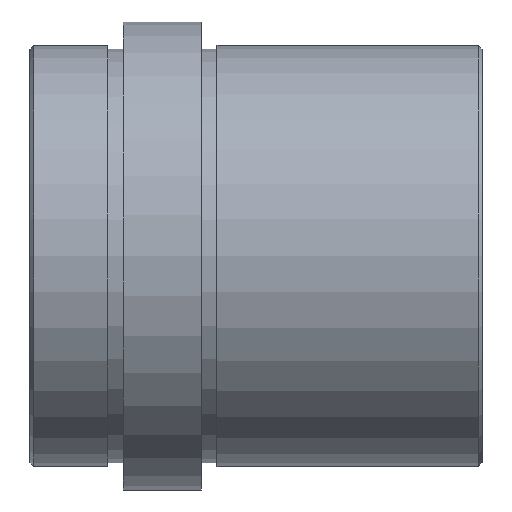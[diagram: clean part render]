
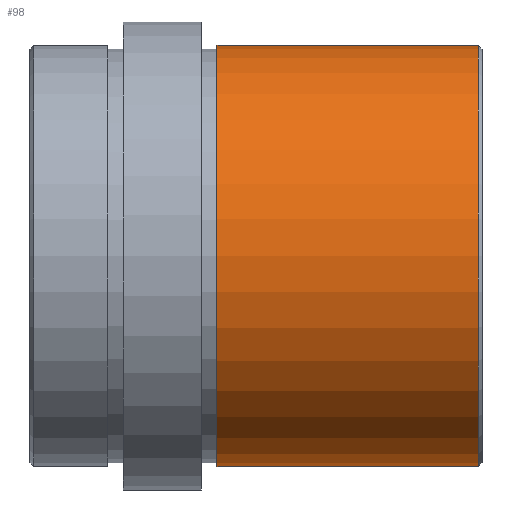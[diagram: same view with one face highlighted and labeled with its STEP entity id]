
A CAD part, top view. The second image highlights one B-rep face of the part: STEP entity #98.
In plain terms, the highlighted face is a revolution surface.
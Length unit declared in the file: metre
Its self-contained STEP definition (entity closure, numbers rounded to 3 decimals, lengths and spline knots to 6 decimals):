
#98 = ADVANCED_FACE( '', ( #152 ), #153, .F. );
#152 = FACE_OUTER_BOUND( '', #241, .T. );
#153 = SURFACE_OF_REVOLUTION( '', #242, #243 );
#241 = EDGE_LOOP( '', ( #407, #408, #409, #410 ) );
#242 = B_SPLINE_CURVE_WITH_KNOTS( '', 1, ( #411, #412 ), .UNSPECIFIED., .F., .F., ( 2, 2 ), ( -10000., 10000. ), .UNSPECIFIED. );
#243 = AXIS1_PLACEMENT( '', #413, #414 );
#407 = ORIENTED_EDGE( '', *, *, #489, .F. );
#408 = ORIENTED_EDGE( '', *, *, #446, .F. );
#409 = ORIENTED_EDGE( '', *, *, #490, .F. );
#410 = ORIENTED_EDGE( '', *, *, #491, .T. );
#411 = CARTESIAN_POINT( '', ( 10000.0575, -0.027, 0. ) );
#412 = CARTESIAN_POINT( '', ( -9999.9425, -0.027, 0. ) );
#413 = CARTESIAN_POINT( '', ( 0., 0., 0. ) );
#414 = DIRECTION( '', ( 1., 0., 0. ) );
#446 = EDGE_CURVE( '', #500, #499, #502, .T. );
#489 = EDGE_CURVE( '', #499, #571, #572, .F. );
#490 = EDGE_CURVE( '', #573, #500, #574, .T. );
#491 = EDGE_CURVE( '', #573, #571, #575, .T. );
#499 = VERTEX_POINT( '', #583 );
#500 = VERTEX_POINT( '', #584 );
#502 = CIRCLE( '', #586, 0.027 );
#571 = VERTEX_POINT( '', #671 );
#572 = LINE( '', #672, #673 );
#573 = VERTEX_POINT( '', #674 );
#574 = LINE( '', #675, #676 );
#575 = CIRCLE( '', #677, 0.027 );
#583 = CARTESIAN_POINT( '', ( 0.024, 0.027, 0. ) );
#584 = CARTESIAN_POINT( '', ( 0.024, -0.027, 0. ) );
#586 = AXIS2_PLACEMENT_3D( '', #692, #693, #694 );
#671 = CARTESIAN_POINT( '', ( 0.0575, 0.027, 0. ) );
#672 = CARTESIAN_POINT( '', ( 0.0575, 0.027, 0. ) );
#673 = VECTOR( '', #789, 1. );
#674 = CARTESIAN_POINT( '', ( 0.0575, -0.027, 0. ) );
#675 = CARTESIAN_POINT( '', ( 0.0575, -0.027, 0. ) );
#676 = VECTOR( '', #790, 1. );
#677 = AXIS2_PLACEMENT_3D( '', #791, #792, #793 );
#692 = CARTESIAN_POINT( '', ( 0.024, 0., 0. ) );
#693 = DIRECTION( '', ( -1., 0., 0. ) );
#694 = DIRECTION( '', ( 0., -1., 0. ) );
#789 = DIRECTION( '', ( -1., 0., 0. ) );
#790 = DIRECTION( '', ( -1., 0., 0. ) );
#791 = CARTESIAN_POINT( '', ( 0.0575, 0., 0. ) );
#792 = DIRECTION( '', ( -1., 0., 0. ) );
#793 = DIRECTION( '', ( 0., -1., 0. ) );
